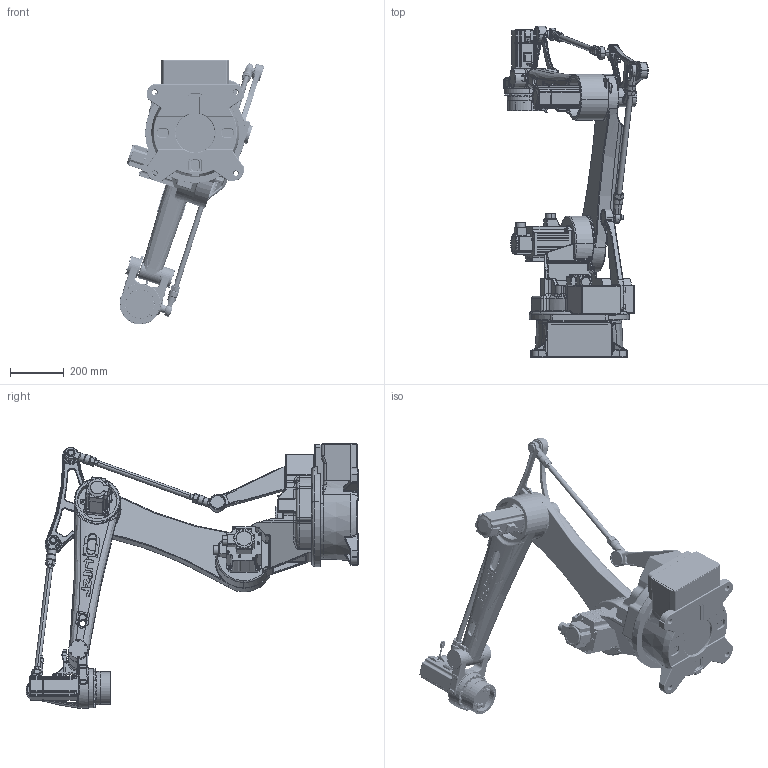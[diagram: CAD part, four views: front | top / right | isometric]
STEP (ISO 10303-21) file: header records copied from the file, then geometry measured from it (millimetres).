
FILE_DESCRIPTION (( 'STEP AP203' ), '1' );
FILE_NAME ('JZJ10B-140.STEP', '2018-04-28T08:43:14', ( 'ﾎ｢ﾈ橆ﾃｻｧ' ), ( 'ﾎ｢ﾈ晥ｫﾋｾ' ), 'SwSTEP 2.0', 'SolidWorks 2012', '' );
FILE_SCHEMA (( 'CONFIG_CONTROL_DESIGN' ));
Products named in the file (9): JZJ10B-140; JZJ10B-140-0401; JZJ10B-140-07; JZJ10B-140-08; JZJ10B-140-06; JZJ10B-140-05; JZJ10B-140-03; JZJ10B-140-02; JZJ10B-140-01
Assembly tree (8 placements, depth 2):
  JZJ10B-140
    JZJ10B-140-01
    JZJ10B-140-02
    JZJ10B-140-03
    JZJ10B-140-05
    JZJ10B-140-06
    JZJ10B-140-08
    JZJ10B-140-07
    JZJ10B-140-0401
Bounding box: 535.05 x 1229.77 x 981.1 mm (x, y, z)
Volume: 29513990 mm3; surface area: 2831506.2 mm2
Topology: 21 solids, 53 shells, 5195 faces, 13914 edges, 8455 vertices
Faces by surface type: plane 2061, cylinder 1464, bspline 736, torus 575, cone 237, sphere 122
Entity records: 221022 total; most frequent: CARTESIAN_POINT 94382, ORIENTED_EDGE 27280, DIRECTION 25966, EDGE_CURVE 13640, AXIS2_PLACEMENT_3D 10094, VERTEX_POINT 8445, VECTOR 5778, LINE 5778
